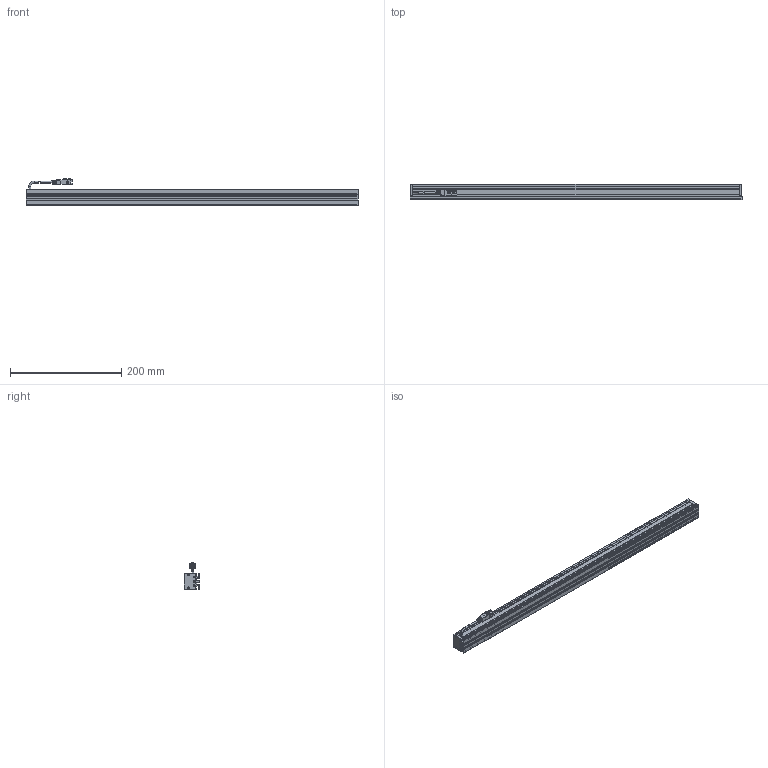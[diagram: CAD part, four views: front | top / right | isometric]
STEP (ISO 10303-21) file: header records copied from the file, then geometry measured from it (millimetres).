
FILE_DESCRIPTION (( 'STEP AP203' ), '1' );
FILE_NAME ('CK-BL59728.STEP', '2026-01-02T06:07:56', ( '' ), ( '' ), 'SwSTEP 2.0', 'SolidWorks 2022', '' );
FILE_SCHEMA (( 'CONFIG_CONTROL_DESIGN' ));
Length unit declared in the file: millimetre
Products named in the file (6): CK-BL59728-001A; 光源线-01; CK-BL59728-002A; CK-BL59728-003A; 十字沉头螺丝 M2x10; CK-BL59728
Assembly tree (11 placements, depth 2):
  CK-BL59728
    CK-BL59728-001A
    CK-BL59728-002A  x2
    CK-BL59728-003A
    光源线-01
    十字沉头螺丝 M2x10  x6
Bounding box: 597 x 27 x 47.34 mm (x, y, z)
Volume: 193259.5 mm3; surface area: 169221.8 mm2
Topology: 13 solids, 13 shells, 575 faces, 1494 edges, 950 vertices
Faces by surface type: plane 337, cylinder 172, cone 46, bspline 20
Entity records: 13997 total; most frequent: CARTESIAN_POINT 2782, ORIENTED_EDGE 2202, DIRECTION 2163, EDGE_CURVE 1101, LINE 781, VECTOR 781, VERTEX_POINT 714, AXIS2_PLACEMENT_3D 691
